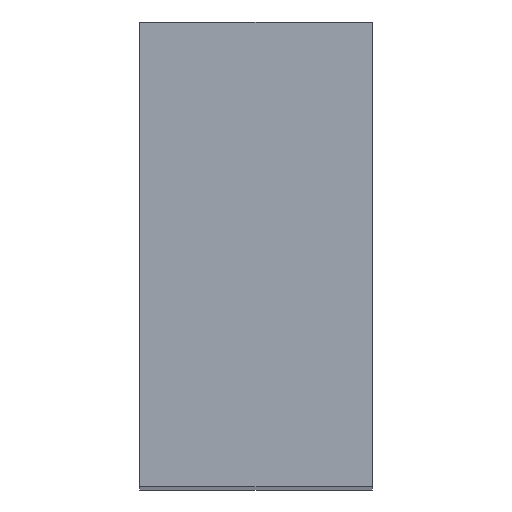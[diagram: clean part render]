
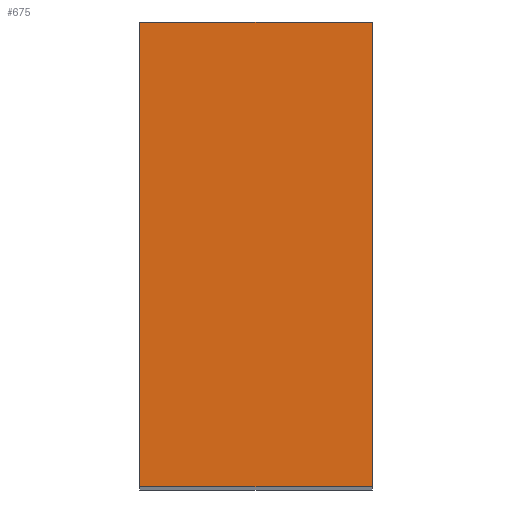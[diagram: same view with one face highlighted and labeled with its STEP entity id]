
A CAD part, top view. The second image highlights one B-rep face of the part: STEP entity #675.
In plain terms, the highlighted planar face has unit normal (0, 0, 1).
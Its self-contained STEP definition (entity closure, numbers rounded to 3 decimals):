
#94=FACE_OUTER_BOUND('',#129,.T.);
#129=EDGE_LOOP('',(#601,#602,#603,#604));
#143=LINE('',#965,#203);
#146=LINE('',#970,#206);
#190=LINE('',#1256,#250);
#192=LINE('',#1260,#252);
#203=VECTOR('',#774,10.);
#206=VECTOR('',#779,10.);
#250=VECTOR('',#923,10.);
#252=VECTOR('',#929,10.);
#264=VERTEX_POINT('',#962);
#265=VERTEX_POINT('',#964);
#266=VERTEX_POINT('',#968);
#320=VERTEX_POINT('',#1254);
#332=EDGE_CURVE('',#265,#264,#143,.T.);
#335=EDGE_CURVE('',#264,#266,#146,.T.);
#417=EDGE_CURVE('',#266,#320,#190,.T.);
#419=EDGE_CURVE('',#265,#320,#192,.T.);
#601=ORIENTED_EDGE('',*,*,#419,.F.);
#602=ORIENTED_EDGE('',*,*,#332,.T.);
#603=ORIENTED_EDGE('',*,*,#335,.T.);
#604=ORIENTED_EDGE('',*,*,#417,.T.);
#643=PLANE('',#750);
#675=ADVANCED_FACE('',(#94),#643,.T.);
#750=AXIS2_PLACEMENT_3D('',#1259,#927,#928);
#774=DIRECTION('',(0.,1.,0.));
#779=DIRECTION('',(-1.,0.,0.));
#923=DIRECTION('',(0.,-1.,0.));
#927=DIRECTION('center_axis',(0.,0.,1.));
#928=DIRECTION('ref_axis',(0.,1.,0.));
#929=DIRECTION('',(-1.,0.,0.));
#962=CARTESIAN_POINT('',(30.,120.,499.8));
#964=CARTESIAN_POINT('',(30.,0.,499.8));
#965=CARTESIAN_POINT('',(30.,0.,499.8));
#968=CARTESIAN_POINT('',(-30.,120.,499.8));
#970=CARTESIAN_POINT('',(30.,120.,499.8));
#1254=CARTESIAN_POINT('',(-30.,0.,499.8));
#1256=CARTESIAN_POINT('',(-30.,30.,499.8));
#1259=CARTESIAN_POINT('Origin',(30.,0.,499.8));
#1260=CARTESIAN_POINT('',(30.,0.,499.8));
